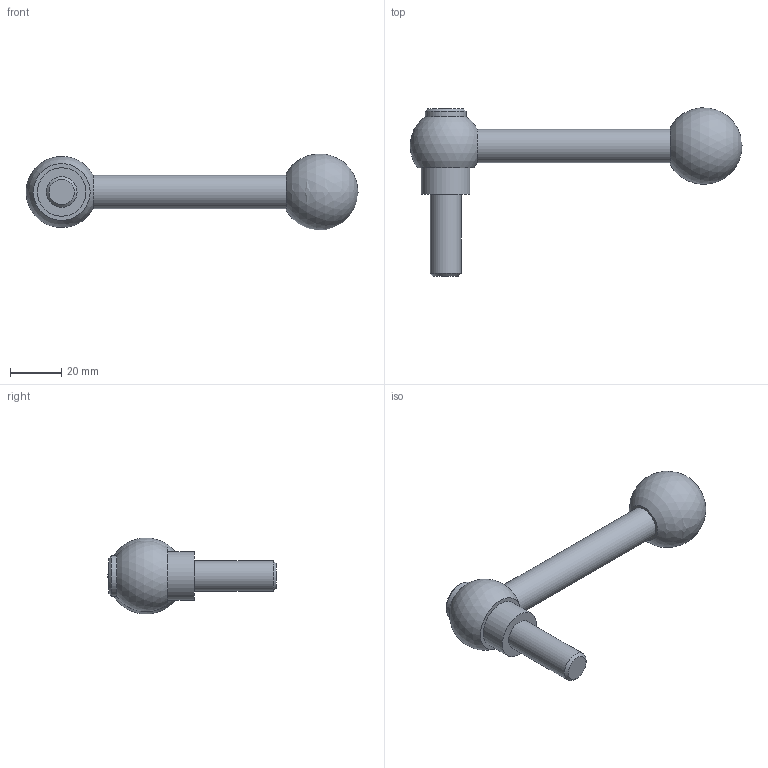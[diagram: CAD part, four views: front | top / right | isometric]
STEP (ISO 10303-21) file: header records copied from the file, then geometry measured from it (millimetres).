
FILE_DESCRIPTION( ( 'STEP AP203' ), '1' );
FILE_NAME( 'C:/Temp/Ganter_Step_05_03_2020/data/2_1/gn_6337_3/gn_6337_3_ms/gn_6337_3_ms_m/Adjustable clamping lever with bolt GN 6337.3-28-M12-32-M.stp', '2020-03-05T11:41:15', ( 'License CC BY-ND 4.0' ), ( 'CADENAS' ), ' ', 'PARTsolutions', ' ' );
FILE_SCHEMA( ( 'CONFIG_CONTROL_DESIGN' ) );
Length unit declared in the file: millimetre
Products named in the file (1): _Adjustable clamping lever with bolt GN 6337.3-28-M12-32-M
Bounding box: 129.99 x 65.93 x 29.7 mm (x, y, z)
Volume: 41115.1 mm3; surface area: 9905 mm2
Topology: 1 solids, 1 shells, 13 faces, 26 edges, 17 vertices
Faces by surface type: plane 5, cylinder 4, cone 2, sphere 2
Full cylindrical faces by diameter (mm): 12 x1, 13 x1, 15.969 x1, 19 x1
Entity records: 302 total; most frequent: DIRECTION 52, CARTESIAN_POINT 39, AXIS2_PLACEMENT_3D 26, EDGE_LOOP 24, ORIENTED_EDGE 24, FACE_OUTER_BOUND 18, ADVANCED_FACE 13, VERTEX_POINT 13
